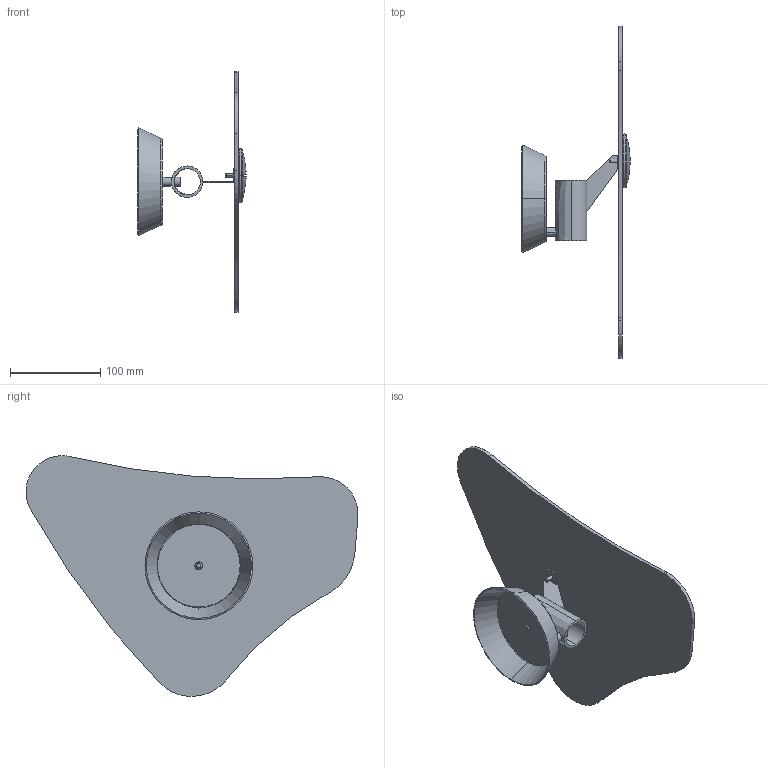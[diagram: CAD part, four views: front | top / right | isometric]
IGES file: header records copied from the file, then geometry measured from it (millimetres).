
Start section: SolidWorks IGES file using analytic representation for surfaces
Global section: file name: X:\stage\BIT\BIT 4.IGS; native system: SolidWorks 2006 by SolidWorks Corporation; preprocessor: SolidWorks 2006 by SolidWorks Corporation; author: stagetec; date: 060919.162036; units: millimetre
Bounding box: 120.15 x 368.75 x 267.28 mm (x, y, z)
Volume: 307673.7 mm3; surface area: 192000.5 mm2
Topology: 5 solids, 5 shells, 87 faces, 193 edges, 122 vertices
Faces by surface type: revolution 58, plane 29
